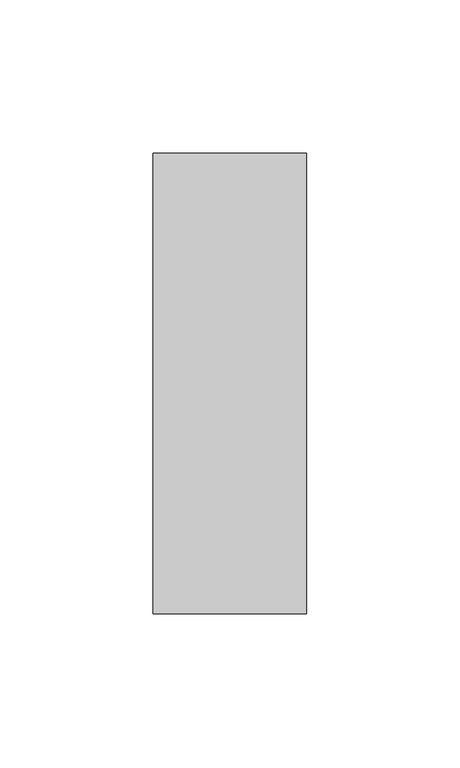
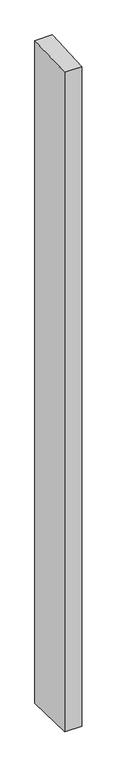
"""IFC4 building model written with IfcOpenShell, lengths in millimetres: member geometry, Прямоугольный импост : 50 x 150 мм."""

from ifc_helpers import new_model, si_unit, origin, place, context, project, spatial, faceted_brep, source, transform, mapped, element, save


def member_e3530c61(model_context):
    return source(origin(), model_context, "Body", "Brep", [
        faceted_brep([(-25.0, 75.0, 3.148425), (25.0, 75.0, 3.3897976), (25.0, 75.0, -2035.7297425), (-25.0, 75.0, -2035.5306869), (-25.0, -75.0, -3.3897976), (-25.0, -75.0, -2031.5372426), (25.0, -75.0, -3.148425), (25.0, -75.0, -2031.7362982)], [[[0, 1, 2, 3]], [[4, 0, 3, 5]], [[6, 4, 5, 7]], [[1, 6, 7, 2]], [[1, 0, 4, 6]], [[2, 7, 5, 3]]]),
    ])


if __name__ == "__main__":
    model = new_model("IFC4")
    model_context = context("Model", 3, world=origin())
    ifc_project = project(units=[si_unit("LENGTHUNIT", "METRE", prefix="MILLI")], contexts=[model_context])
    site = spatial("IfcSite", under=ifc_project)
    building = spatial("IfcBuilding", under=site)
    placement = place(None, origin())
    member_shape = member_e3530c61(model_context)
    element("IfcMember", 1, ObjectType="Прямоугольный импост : 50 x 150 мм", at=placement, inside=building, context=model_context, shape_type="MappedRepresentation", body=[
        mapped(member_shape, transform((0.0, 0.0, 0.0), x_axis=(1.0, 0.0, 0.0), y_axis=(0.0, 1.0, 0.0), z_axis=(0.0, 0.0, 1.0))),
    ])
    save(model, "model.ifc")
